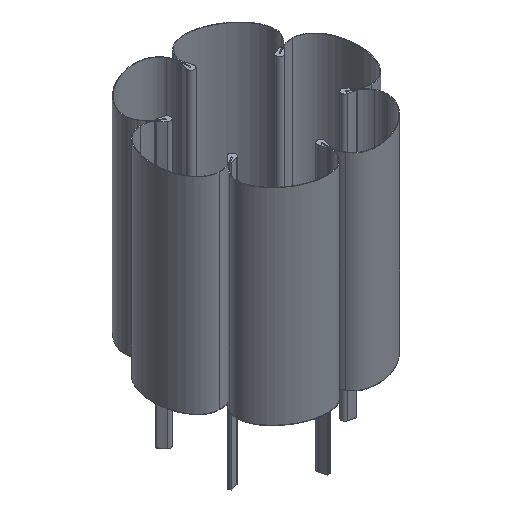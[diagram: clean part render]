
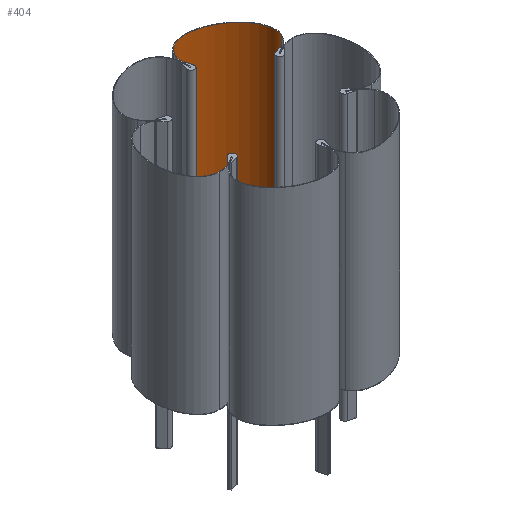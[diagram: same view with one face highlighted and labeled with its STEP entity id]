
A CAD part, isometric view. The second image highlights one B-rep face of the part: STEP entity #404.
In plain terms, the highlighted free-form (B-spline) face has degree [3, 1] with [7, 2] control points.
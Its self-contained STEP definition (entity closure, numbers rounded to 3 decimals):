
#27=(
BOUNDED_SURFACE()
B_SPLINE_SURFACE(3,1,((#10531,#10532),(#10533,#10534),(#10535,#10536),(#10537,
#10538),(#10539,#10540),(#10541,#10542),(#10543,#10544)),.UNSPECIFIED.,
 .F.,.F.,.F.)
B_SPLINE_SURFACE_WITH_KNOTS((4,3,4),(2,2),(47.541,49.111,
50.682),(0.,200.),.UNSPECIFIED.)
GEOMETRIC_REPRESENTATION_ITEM()
RATIONAL_B_SPLINE_SURFACE(((1.,1.),(0.835,0.835),
(0.866,0.866),(1.117,1.117),
(0.866,0.866),(0.835,0.835),
(1.,1.)))
REPRESENTATION_ITEM('')
SURFACE()
);
#404=ADVANCED_FACE('',(#753),#27,.T.);
#753=FACE_OUTER_BOUND('',#1107,.T.);
#1107=EDGE_LOOP('',(#2175,#2176,#2177,#2178));
#2175=ORIENTED_EDGE('',*,*,#3400,.T.);
#2176=ORIENTED_EDGE('',*,*,#3401,.T.);
#2177=ORIENTED_EDGE('',*,*,#3402,.F.);
#2178=ORIENTED_EDGE('',*,*,#3398,.F.);
#3398=EDGE_CURVE('',#5091,#5092,#3856,.T.);
#3400=EDGE_CURVE('',#5091,#5093,#3858,.T.);
#3401=EDGE_CURVE('',#5093,#5094,#3859,.T.);
#3402=EDGE_CURVE('',#5092,#5094,#3860,.T.);
#3856=(
BOUNDED_CURVE()
B_SPLINE_CURVE(1,(#10864,#10865),.UNSPECIFIED.,.F.,.F.)
B_SPLINE_CURVE_WITH_KNOTS((2,2),(0.,200.),.UNSPECIFIED.)
CURVE()
GEOMETRIC_REPRESENTATION_ITEM()
RATIONAL_B_SPLINE_CURVE((1.,1.))
REPRESENTATION_ITEM('')
);
#3858=(
BOUNDED_CURVE()
B_SPLINE_CURVE(3,(#10870,#10871,#10872,#10873,#10874,#10875,#10876),
 .UNSPECIFIED.,.F.,.F.)
B_SPLINE_CURVE_WITH_KNOTS((4,3,4),(47.541,49.111,50.682),
 .UNSPECIFIED.)
CURVE()
GEOMETRIC_REPRESENTATION_ITEM()
RATIONAL_B_SPLINE_CURVE((1.,0.835,0.866,1.117,
0.866,0.835,1.))
REPRESENTATION_ITEM('')
);
#3859=(
BOUNDED_CURVE()
B_SPLINE_CURVE(1,(#10877,#10878),.UNSPECIFIED.,.F.,.F.)
B_SPLINE_CURVE_WITH_KNOTS((2,2),(0.,200.),.UNSPECIFIED.)
CURVE()
GEOMETRIC_REPRESENTATION_ITEM()
RATIONAL_B_SPLINE_CURVE((1.,1.))
REPRESENTATION_ITEM('')
);
#3860=(
BOUNDED_CURVE()
B_SPLINE_CURVE(3,(#10879,#10880,#10881,#10882,#10883,#10884,#10885),
 .UNSPECIFIED.,.F.,.F.)
B_SPLINE_CURVE_WITH_KNOTS((4,3,4),(47.541,49.111,50.682),
 .UNSPECIFIED.)
CURVE()
GEOMETRIC_REPRESENTATION_ITEM()
RATIONAL_B_SPLINE_CURVE((1.,0.835,0.866,1.117,
0.866,0.835,1.))
REPRESENTATION_ITEM('')
);
#5091=VERTEX_POINT('',#10824);
#5092=VERTEX_POINT('',#10825);
#5093=VERTEX_POINT('',#10826);
#5094=VERTEX_POINT('',#10827);
#10531=CARTESIAN_POINT('',(-573.689,10.424,-271.804));
#10532=CARTESIAN_POINT('',(-573.689,10.424,-71.804));
#10533=CARTESIAN_POINT('',(-566.657,23.694,-271.804));
#10534=CARTESIAN_POINT('',(-566.657,23.694,-71.804));
#10535=CARTESIAN_POINT('',(-547.664,24.983,-271.804));
#10536=CARTESIAN_POINT('',(-547.664,24.983,-71.804));
#10537=CARTESIAN_POINT('',(-527.826,13.534,-271.804));
#10538=CARTESIAN_POINT('',(-527.826,13.534,-71.804));
#10539=CARTESIAN_POINT('',(-507.992,2.08,-271.804));
#10540=CARTESIAN_POINT('',(-507.992,2.08,-71.804));
#10541=CARTESIAN_POINT('',(-499.611,-15.013,-271.804));
#10542=CARTESIAN_POINT('',(-499.611,-15.013,-71.804));
#10543=CARTESIAN_POINT('',(-507.586,-27.738,-271.804));
#10544=CARTESIAN_POINT('',(-507.586,-27.738,-71.804));
#10824=CARTESIAN_POINT('',(-573.689,10.424,-271.804));
#10825=CARTESIAN_POINT('',(-573.689,10.424,-71.804));
#10826=CARTESIAN_POINT('',(-507.586,-27.738,-271.804));
#10827=CARTESIAN_POINT('',(-507.586,-27.738,-71.804));
#10864=CARTESIAN_POINT('',(-573.689,10.424,-271.804));
#10865=CARTESIAN_POINT('',(-573.689,10.424,-71.804));
#10870=CARTESIAN_POINT('',(-573.689,10.424,-271.804));
#10871=CARTESIAN_POINT('',(-566.657,23.694,-271.804));
#10872=CARTESIAN_POINT('',(-547.664,24.983,-271.804));
#10873=CARTESIAN_POINT('',(-527.826,13.534,-271.804));
#10874=CARTESIAN_POINT('',(-507.992,2.08,-271.804));
#10875=CARTESIAN_POINT('',(-499.611,-15.013,-271.804));
#10876=CARTESIAN_POINT('',(-507.586,-27.738,-271.804));
#10877=CARTESIAN_POINT('',(-507.586,-27.738,-271.804));
#10878=CARTESIAN_POINT('',(-507.586,-27.738,-71.804));
#10879=CARTESIAN_POINT('',(-573.689,10.424,-71.804));
#10880=CARTESIAN_POINT('',(-566.657,23.694,-71.804));
#10881=CARTESIAN_POINT('',(-547.664,24.983,-71.804));
#10882=CARTESIAN_POINT('',(-527.826,13.534,-71.804));
#10883=CARTESIAN_POINT('',(-507.992,2.08,-71.804));
#10884=CARTESIAN_POINT('',(-499.611,-15.013,-71.804));
#10885=CARTESIAN_POINT('',(-507.586,-27.738,-71.804));
